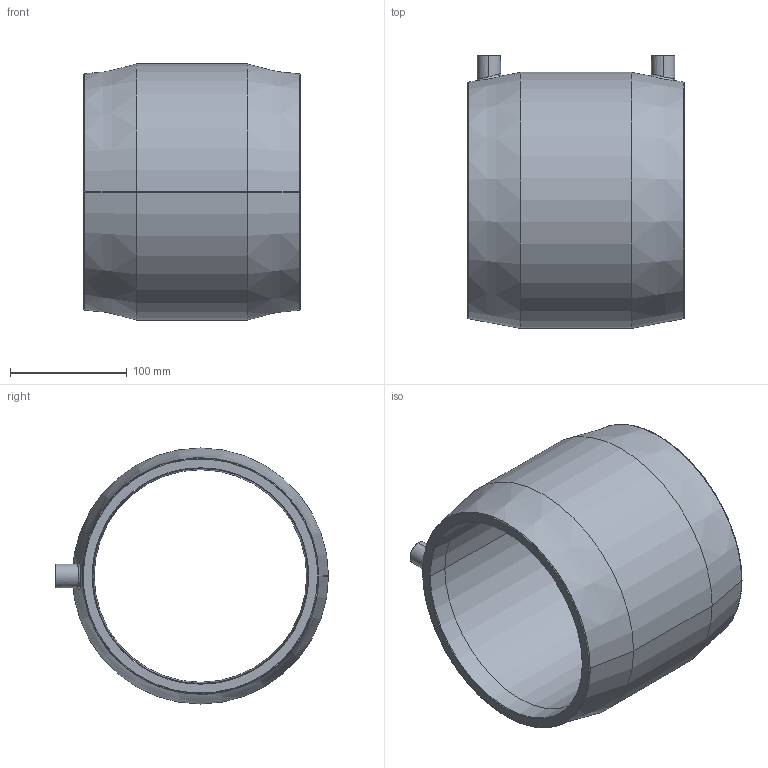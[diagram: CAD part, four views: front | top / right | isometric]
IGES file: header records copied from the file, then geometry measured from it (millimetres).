
Start section: SolidWorks IGES file using analytic representation for surfaces
Global section: file name: G:\Group\Marketing\Public\CAD Offering - Website\1. coupler\CBKHA180.IGS; native system: SolidWorks 2017; preprocessor: SolidWorks 2017; author: hwegrzynska; date: 180919.153156; units: millimetre
Bounding box: 185 x 233.4 x 219 mm (x, y, z)
Surface area: 245890 mm2 (no closed solid volume)
Topology: 0 solids, 0 shells, 48 faces, 887 edges, 887 vertices
Faces by surface type: revolution 32, bspline 16
